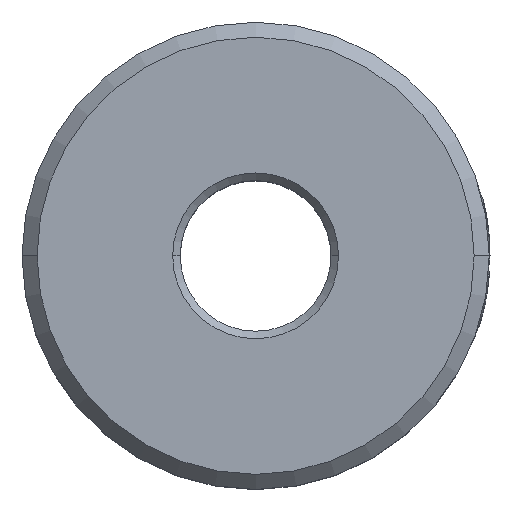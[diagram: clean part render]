
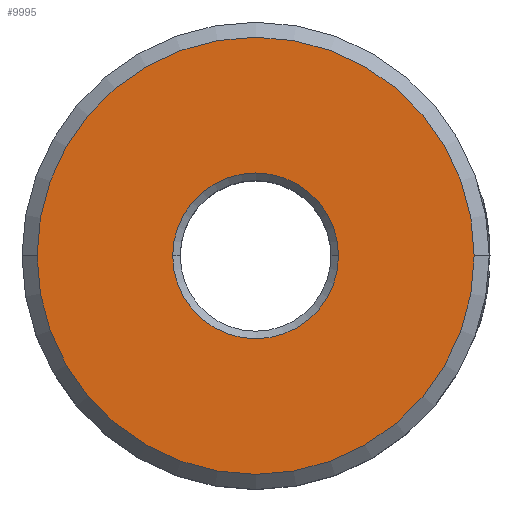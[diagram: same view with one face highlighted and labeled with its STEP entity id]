
A CAD part, top view. The second image highlights one B-rep face of the part: STEP entity #9995.
In plain terms, the highlighted planar face has unit normal (0, 0, 1).
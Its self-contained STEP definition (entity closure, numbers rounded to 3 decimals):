
#200 = CARTESIAN_POINT ( 'NONE',  ( 1.1, 0., 2.5 ) ) ;
#486 = DIRECTION ( 'NONE',  ( 1., 0., 0. ) ) ;
#1391 = CARTESIAN_POINT ( 'NONE',  ( 2.9, 0., 2.5 ) ) ;
#1900 = EDGE_CURVE ( 'NONE', #14092, #6412, #2076, .T. ) ;
#2076 = CIRCLE ( 'NONE', #13589, 2.9 ) ;
#2399 = PLANE ( 'NONE',  #5201 ) ;
#3059 = CIRCLE ( 'NONE', #12232, 2.9 ) ;
#3430 = DIRECTION ( 'NONE',  ( 1., 0., 0. ) ) ;
#3788 = DIRECTION ( 'NONE',  ( 0., 0., -1. ) ) ;
#3866 = CARTESIAN_POINT ( 'NONE',  ( 0., 0., 2.5 ) ) ;
#4807 = CIRCLE ( 'NONE', #11182, 1.1 ) ;
#4934 = DIRECTION ( 'NONE',  ( 1., 0., 0. ) ) ;
#5037 = VERTEX_POINT ( 'NONE', #10243 ) ;
#5201 = AXIS2_PLACEMENT_3D ( 'NONE', #9166, #11087, #6663 ) ;
#6013 = DIRECTION ( 'NONE',  ( 0., 0., 1. ) ) ;
#6379 = FACE_OUTER_BOUND ( 'NONE', #12337, .T. ) ;
#6412 = VERTEX_POINT ( 'NONE', #13289 ) ;
#6449 = ORIENTED_EDGE ( 'NONE', *, *, #9788, .T. ) ;
#6663 = DIRECTION ( 'NONE',  ( 1., 0., 0. ) ) ;
#6956 = AXIS2_PLACEMENT_3D ( 'NONE', #12335, #9043, #3430 ) ;
#7445 = EDGE_LOOP ( 'NONE', ( #6449, #8923 ) ) ;
#7794 = ORIENTED_EDGE ( 'NONE', *, *, #12002, .T. ) ;
#7914 = CIRCLE ( 'NONE', #6956, 1.1 ) ;
#8066 = DIRECTION ( 'NONE',  ( 0., 0., 1. ) ) ;
#8606 = FACE_BOUND ( 'NONE', #7445, .T. ) ;
#8923 = ORIENTED_EDGE ( 'NONE', *, *, #9154, .T. ) ;
#9043 = DIRECTION ( 'NONE',  ( 0., 0., -1. ) ) ;
#9154 = EDGE_CURVE ( 'NONE', #5037, #11440, #4807, .T. ) ;
#9166 = CARTESIAN_POINT ( 'NONE',  ( 0., 0., 2.5 ) ) ;
#9788 = EDGE_CURVE ( 'NONE', #11440, #5037, #7914, .T. ) ;
#9995 = ADVANCED_FACE ( 'NONE', ( #8606, #6379 ), #2399, .T. ) ;
#10243 = CARTESIAN_POINT ( 'NONE',  ( -1.1, 0., 2.5 ) ) ;
#11087 = DIRECTION ( 'NONE',  ( 0., 0., 1. ) ) ;
#11182 = AXIS2_PLACEMENT_3D ( 'NONE', #13946, #3788, #12543 ) ;
#11431 = CARTESIAN_POINT ( 'NONE',  ( 0., 0., 2.5 ) ) ;
#11440 = VERTEX_POINT ( 'NONE', #200 ) ;
#12002 = EDGE_CURVE ( 'NONE', #6412, #14092, #3059, .T. ) ;
#12232 = AXIS2_PLACEMENT_3D ( 'NONE', #3866, #6013, #486 ) ;
#12284 = ORIENTED_EDGE ( 'NONE', *, *, #1900, .T. ) ;
#12335 = CARTESIAN_POINT ( 'NONE',  ( 0., 0., 2.5 ) ) ;
#12337 = EDGE_LOOP ( 'NONE', ( #7794, #12284 ) ) ;
#12543 = DIRECTION ( 'NONE',  ( 1., 0., 0. ) ) ;
#13289 = CARTESIAN_POINT ( 'NONE',  ( -2.9, 0., 2.5 ) ) ;
#13589 = AXIS2_PLACEMENT_3D ( 'NONE', #11431, #8066, #4934 ) ;
#13946 = CARTESIAN_POINT ( 'NONE',  ( 0., 0., 2.5 ) ) ;
#14092 = VERTEX_POINT ( 'NONE', #1391 ) ;
